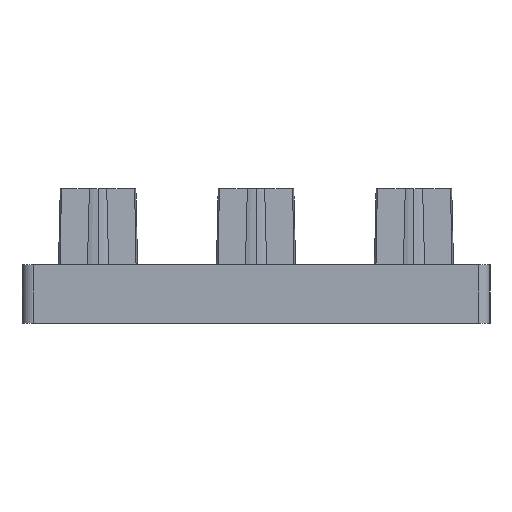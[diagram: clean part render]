
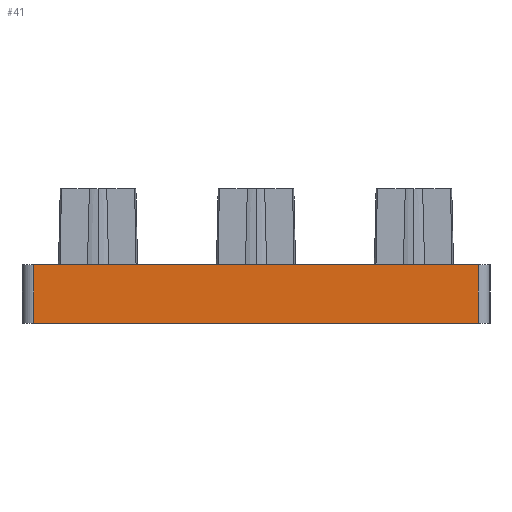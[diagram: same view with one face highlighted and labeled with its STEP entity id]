
A CAD part, left-side view. The second image highlights one B-rep face of the part: STEP entity #41.
In plain terms, the highlighted planar face has unit normal (-1, 0, 0).
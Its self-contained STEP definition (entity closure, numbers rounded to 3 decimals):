
#41 = ADVANCED_FACE ( 'NONE', ( #2395 ), #2680, .T. ) ;
#93 = EDGE_CURVE ( 'NONE', #979, #2497, #1429, .T. ) ;
#336 = CARTESIAN_POINT ( 'NONE',  ( -40., 20., 0. ) ) ;
#378 = EDGE_CURVE ( 'NONE', #802, #2497, #2127, .T. ) ;
#634 = DIRECTION ( 'NONE',  ( 0., 0., -1. ) ) ;
#732 = EDGE_LOOP ( 'NONE', ( #2548, #1170, #3362, #1329 ) ) ;
#785 = CARTESIAN_POINT ( 'NONE',  ( -40., 20., 5. ) ) ;
#802 = VERTEX_POINT ( 'NONE', #2081 ) ;
#979 = VERTEX_POINT ( 'NONE', #2257 ) ;
#1128 = DIRECTION ( 'NONE',  ( -1., 0., 0. ) ) ;
#1170 = ORIENTED_EDGE ( 'NONE', *, *, #1270, .T. ) ;
#1211 = DIRECTION ( 'NONE',  ( 0., 0., 1. ) ) ;
#1212 = AXIS2_PLACEMENT_3D ( 'NONE', #336, #1128, #2167 ) ;
#1270 = EDGE_CURVE ( 'NONE', #802, #2565, #1393, .T. ) ;
#1329 = ORIENTED_EDGE ( 'NONE', *, *, #93, .T. ) ;
#1392 = EDGE_CURVE ( 'NONE', #2565, #979, #2270, .T. ) ;
#1393 = LINE ( 'NONE', #2427, #1650 ) ;
#1395 = CARTESIAN_POINT ( 'NONE',  ( -40., -19., 0. ) ) ;
#1429 = LINE ( 'NONE', #1395, #2017 ) ;
#1650 = VECTOR ( 'NONE', #634, 1000. ) ;
#1757 = VECTOR ( 'NONE', #3309, 1000. ) ;
#2017 = VECTOR ( 'NONE', #1211, 1000. ) ;
#2018 = CARTESIAN_POINT ( 'NONE',  ( -40., 20., 0. ) ) ;
#2081 = CARTESIAN_POINT ( 'NONE',  ( -40., 19., 5. ) ) ;
#2090 = DIRECTION ( 'NONE',  ( 0., -1., 0. ) ) ;
#2127 = LINE ( 'NONE', #785, #3222 ) ;
#2167 = DIRECTION ( 'NONE',  ( 0., 0., 1. ) ) ;
#2257 = CARTESIAN_POINT ( 'NONE',  ( -40., -19., 0. ) ) ;
#2270 = LINE ( 'NONE', #2018, #1757 ) ;
#2395 = FACE_OUTER_BOUND ( 'NONE', #732, .T. ) ;
#2427 = CARTESIAN_POINT ( 'NONE',  ( -40., 19., 0. ) ) ;
#2444 = CARTESIAN_POINT ( 'NONE',  ( -40., -19., 5. ) ) ;
#2491 = CARTESIAN_POINT ( 'NONE',  ( -40., 19., 0. ) ) ;
#2497 = VERTEX_POINT ( 'NONE', #2444 ) ;
#2548 = ORIENTED_EDGE ( 'NONE', *, *, #378, .F. ) ;
#2565 = VERTEX_POINT ( 'NONE', #2491 ) ;
#2680 = PLANE ( 'NONE',  #1212 ) ;
#3222 = VECTOR ( 'NONE', #2090, 1000. ) ;
#3309 = DIRECTION ( 'NONE',  ( 0., -1., 0. ) ) ;
#3362 = ORIENTED_EDGE ( 'NONE', *, *, #1392, .T. ) ;
